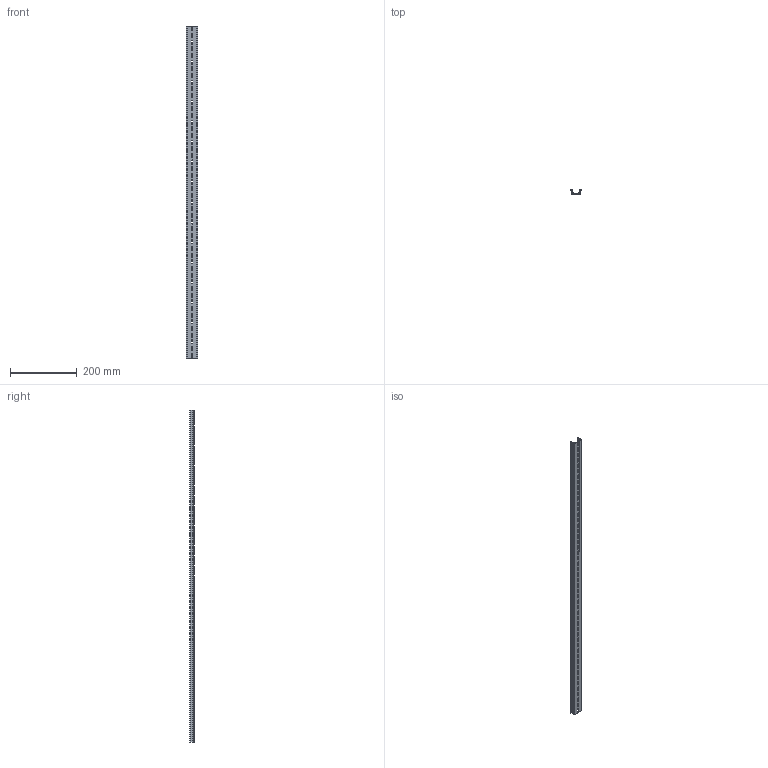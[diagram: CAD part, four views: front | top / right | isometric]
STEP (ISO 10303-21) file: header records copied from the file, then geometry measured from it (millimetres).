
FILE_DESCRIPTION(/* description */ (''),/* implementation_level */ '2;1');
FILE_NAME(/* name */ '22650-(TKB KD-50)HP 3D.stp',/* time_stamp */ '2024-12-05T14:29:52+09:00',/* author */ ('usercadg104'),/* organization */ (''),/* preprocessor_version */ 'ST-DEVELOPER v19.2',/* originating_system */ 'Autodesk Inventor 2023',/* authorisation */ '');
FILE_SCHEMA (('CONFIG_CONTROL_DESIGN'));
Length unit declared in the file: millimetre
Products named in the file (1): TKB KD-3(林)
Bounding box: 35 x 15 x 997 mm (x, y, z)
Volume: 116652.2 mm3; surface area: 134633.5 mm2
Topology: 1 solids, 1 shells, 240 faces, 714 edges, 476 vertices
Faces by surface type: plane 136, cylinder 104
Entity records: 8329 total; most frequent: CARTESIAN_POINT 1431, ORIENTED_EDGE 1428, DIRECTION 1404, EDGE_CURVE 714, LINE 506, VECTOR 506, VERTEX_POINT 476, AXIS2_PLACEMENT_3D 449
